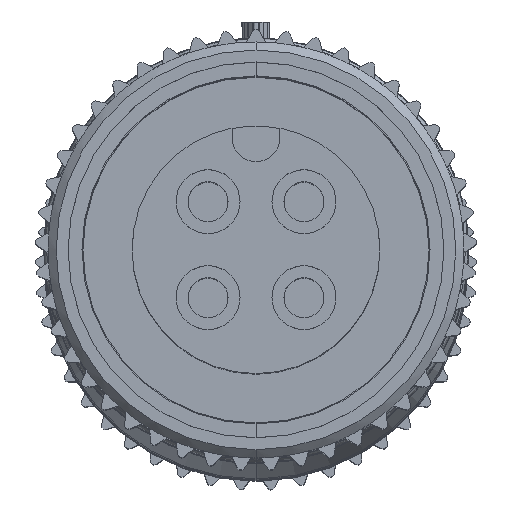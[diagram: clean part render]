
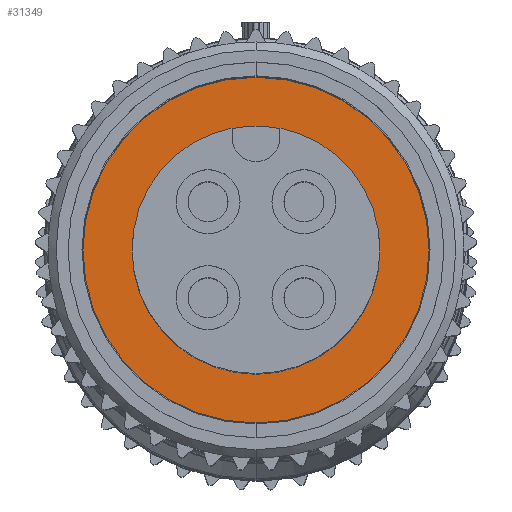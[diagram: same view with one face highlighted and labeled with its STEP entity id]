
A CAD part, top view. The second image highlights one B-rep face of the part: STEP entity #31349.
In plain terms, the highlighted planar face has unit normal (0, 0, 1).
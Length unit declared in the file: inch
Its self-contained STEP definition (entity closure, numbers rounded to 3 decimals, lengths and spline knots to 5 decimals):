
#12124=CARTESIAN_POINT('',(0.,0.,-0.5));
#12125=DIRECTION('',(0.,0.,-1.));
#12126=DIRECTION('',(0.,-1.,0.));
#12127=AXIS2_PLACEMENT_3D('',#12124,#12125,#12126);
#12129=CARTESIAN_POINT('',(0.,0.,-0.5));
#12130=DIRECTION('',(0.,0.,-1.));
#12131=DIRECTION('',(0.,1.,0.));
#12132=AXIS2_PLACEMENT_3D('',#12129,#12130,#12131);
#12134=CARTESIAN_POINT('',(0.,0.,-0.5));
#12135=DIRECTION('',(0.,0.,1.));
#12136=DIRECTION('',(0.,-1.,0.));
#12137=AXIS2_PLACEMENT_3D('',#12134,#12135,#12136);
#12139=CARTESIAN_POINT('',(0.,0.,-0.5));
#12140=DIRECTION('',(0.,0.,1.));
#12141=DIRECTION('',(0.,1.,0.));
#12142=AXIS2_PLACEMENT_3D('',#12139,#12140,#12141);
#13987=CARTESIAN_POINT('',(0.,0.2165,-0.5));
#13988=VERTEX_POINT('',#13987);
#13989=CARTESIAN_POINT('',(0.,-0.2165,-0.5));
#13990=VERTEX_POINT('',#13989);
#13991=CARTESIAN_POINT('',(0.,-0.155,-0.5));
#13992=CARTESIAN_POINT('',(0.,0.155,-0.5));
#13993=VERTEX_POINT('',#13991);
#13994=VERTEX_POINT('',#13992);
#31334=CARTESIAN_POINT('',(0.,0.,-0.5));
#31335=DIRECTION('',(0.,0.,1.));
#31336=DIRECTION('',(0.,1.,0.));
#31337=AXIS2_PLACEMENT_3D('',#31334,#31335,#31336);
#31338=PLANE('',#31337);
#31339=ORIENTED_EDGE('',*,*,#31316,.T.);
#31340=ORIENTED_EDGE('',*,*,#31301,.T.);
#31341=EDGE_LOOP('',(#31339,#31340));
#31342=FACE_OUTER_BOUND('',#31341,.F.);
#31344=ORIENTED_EDGE('',*,*,#31343,.T.);
#31346=ORIENTED_EDGE('',*,*,#31345,.T.);
#31347=EDGE_LOOP('',(#31344,#31346));
#31348=FACE_BOUND('',#31347,.F.);
#31349=ADVANCED_FACE('',(#31342,#31348),#31338,.T.);
#12128=CIRCLE('',#12127,0.2165);
#12133=CIRCLE('',#12132,0.2165);
#12138=CIRCLE('',#12137,0.155);
#12143=CIRCLE('',#12142,0.155);
#31301=EDGE_CURVE('',#13988,#13990,#12133,.T.);
#31316=EDGE_CURVE('',#13990,#13988,#12128,.T.);
#31343=EDGE_CURVE('',#13993,#13994,#12138,.T.);
#31345=EDGE_CURVE('',#13994,#13993,#12143,.T.);
